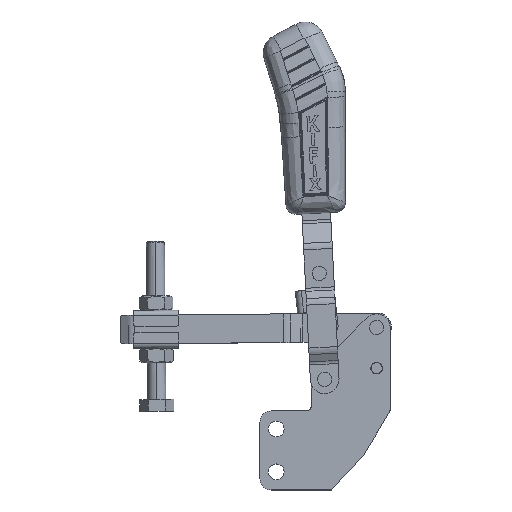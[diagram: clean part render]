
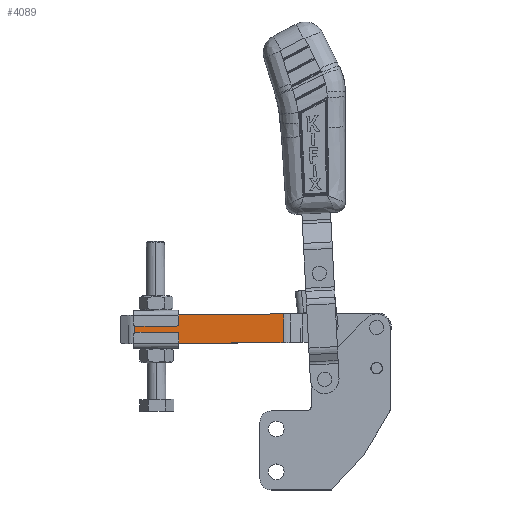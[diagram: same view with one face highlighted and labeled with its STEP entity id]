
A CAD part, top view. The second image highlights one B-rep face of the part: STEP entity #4089.
In plain terms, the highlighted planar face has unit normal (0, 0, 1) as drawn and (1, 0, 0) by its records, which use the part's own axes.
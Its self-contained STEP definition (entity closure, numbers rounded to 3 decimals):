
#365 = FACE_OUTER_BOUND ( 'NONE', #20711, .T. ) ;
#1743 = VECTOR ( 'NONE', #3807, 1000. ) ;
#2393 = DIRECTION ( 'NONE',  ( 0., 0., -1. ) ) ;
#3174 = CARTESIAN_POINT ( 'NONE',  ( 5.656, 40.56, -6.35 ) ) ;
#3196 = LINE ( 'NONE', #8065, #22242 ) ;
#3205 = LINE ( 'NONE', #13443, #17917 ) ;
#3807 = DIRECTION ( 'NONE',  ( 0., 0., -1. ) ) ;
#4089 = ADVANCED_FACE ( 'NONE', ( #365 ), #13990, .T. ) ;
#4308 = ORIENTED_EDGE ( 'NONE', *, *, #4673, .T. ) ;
#4443 = DIRECTION ( 'NONE',  ( 0., -1., 0. ) ) ;
#4464 = EDGE_CURVE ( 'NONE', #12442, #22408, #3196, .T. ) ;
#4673 = EDGE_CURVE ( 'NONE', #16435, #12164, #15589, .T. ) ;
#4793 = DIRECTION ( 'NONE',  ( 0., 1., 0. ) ) ;
#5266 = CARTESIAN_POINT ( 'NONE',  ( 5.656, 40.56, 6.35 ) ) ;
#5581 = EDGE_CURVE ( 'NONE', #12164, #22408, #16437, .T. ) ;
#7890 = AXIS2_PLACEMENT_3D ( 'NONE', #12113, #15820, #4793 ) ;
#8006 = DIRECTION ( 'NONE',  ( 0., -1., 0. ) ) ;
#8065 = CARTESIAN_POINT ( 'NONE',  ( 5.656, 41.2, -6.35 ) ) ;
#11296 = CARTESIAN_POINT ( 'NONE',  ( 5.656, -25.577, -6.35 ) ) ;
#12113 = CARTESIAN_POINT ( 'NONE',  ( 5.656, 41.2, 6.35 ) ) ;
#12164 = VERTEX_POINT ( 'NONE', #15914 ) ;
#12442 = VERTEX_POINT ( 'NONE', #3174 ) ;
#12492 = ORIENTED_EDGE ( 'NONE', *, *, #5581, .T. ) ;
#13443 = CARTESIAN_POINT ( 'NONE',  ( 5.656, 40.56, 6.35 ) ) ;
#13990 = PLANE ( 'NONE',  #7890 ) ;
#15405 = CARTESIAN_POINT ( 'NONE',  ( 5.656, 41.2, 6.35 ) ) ;
#15589 = LINE ( 'NONE', #15405, #19317 ) ;
#15820 = DIRECTION ( 'NONE',  ( 1., 0., 0. ) ) ;
#15914 = CARTESIAN_POINT ( 'NONE',  ( 5.656, -25.577, 6.35 ) ) ;
#16435 = VERTEX_POINT ( 'NONE', #5266 ) ;
#16437 = LINE ( 'NONE', #18555, #1743 ) ;
#17917 = VECTOR ( 'NONE', #2393, 1000. ) ;
#18555 = CARTESIAN_POINT ( 'NONE',  ( 5.656, -25.577, 6.35 ) ) ;
#19317 = VECTOR ( 'NONE', #8006, 1000. ) ;
#20711 = EDGE_LOOP ( 'NONE', ( #21527, #21944, #4308, #12492 ) ) ;
#20802 = EDGE_CURVE ( 'NONE', #16435, #12442, #3205, .T. ) ;
#21527 = ORIENTED_EDGE ( 'NONE', *, *, #4464, .F. ) ;
#21944 = ORIENTED_EDGE ( 'NONE', *, *, #20802, .F. ) ;
#22242 = VECTOR ( 'NONE', #4443, 1000. ) ;
#22408 = VERTEX_POINT ( 'NONE', #11296 ) ;
